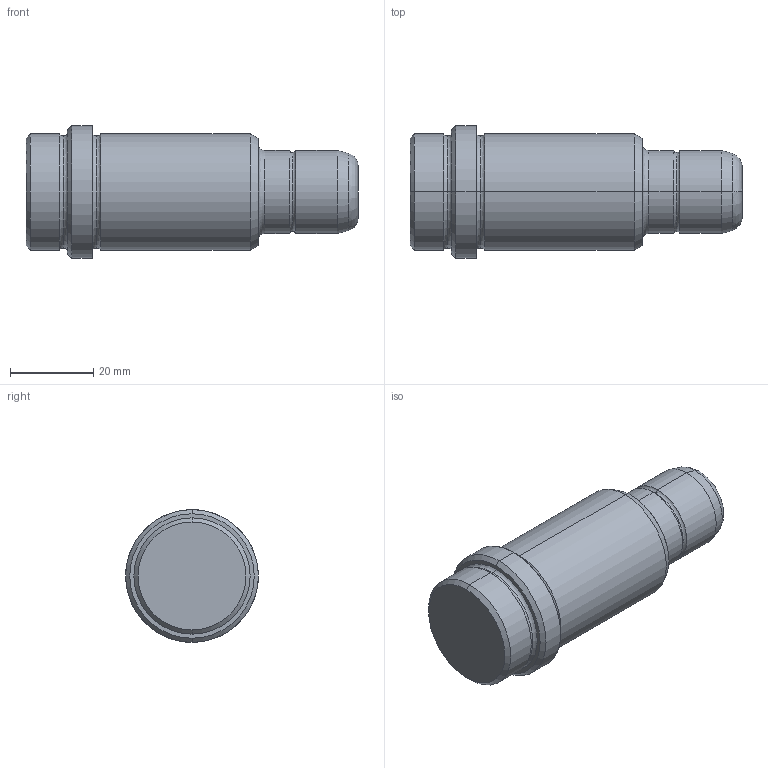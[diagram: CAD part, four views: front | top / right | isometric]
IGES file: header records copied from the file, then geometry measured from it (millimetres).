
Start section: START RECORD GO HERE.
Global section: file name: 357-20X56X80.igs; native system: DASSAULT SYSTEMES CATIA V5 R20 - www.3ds.com; preprocessor: CATIA Version 5 Release 20 ; author: Utente; organization: NB04-ASUS; date: 20210814.111947; units: millimetre
Bounding box: 80 x 32 x 32 mm (x, y, z)
Surface area: 7828.4 mm2 (no closed solid volume)
Topology: 0 solids, 0 shells, 39 faces, 224 edges, 224 vertices
Faces by surface type: revolution 34, plane 5
